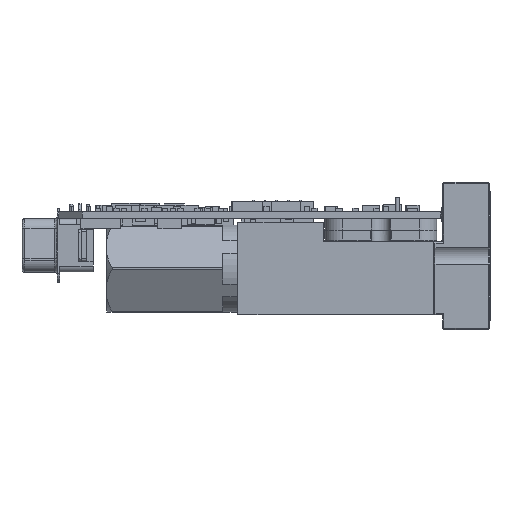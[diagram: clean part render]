
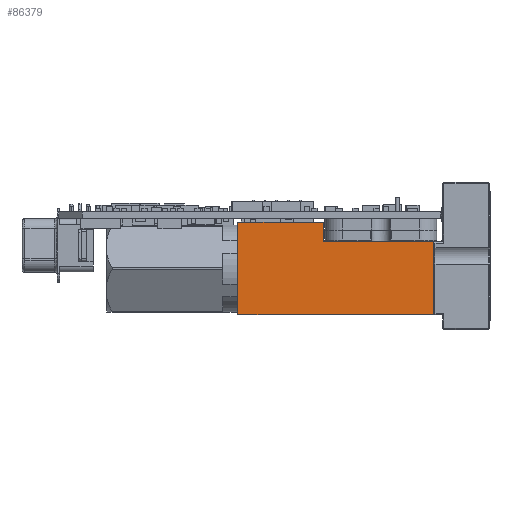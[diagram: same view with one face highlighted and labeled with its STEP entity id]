
A CAD part, left-side view. The second image highlights one B-rep face of the part: STEP entity #86379.
In plain terms, the highlighted planar face has unit normal (-1, 0, 0).
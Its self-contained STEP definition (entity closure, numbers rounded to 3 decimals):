
#1192 = FACE_OUTER_BOUND ( 'NONE', #77905, .T. ) ;
#3592 = CARTESIAN_POINT ( 'NONE',  ( -22.3, -54.661, -10. ) ) ;
#7350 = EDGE_CURVE ( 'NONE', #95698, #64883, #15951, .T. ) ;
#8871 = DIRECTION ( 'NONE',  ( 0., 0., -1. ) ) ;
#10995 = DIRECTION ( 'NONE',  ( 0., 0., -1. ) ) ;
#11310 = LINE ( 'NONE', #62703, #87436 ) ;
#15951 = LINE ( 'NONE', #58792, #33212 ) ;
#16238 = AXIS2_PLACEMENT_3D ( 'NONE', #3592, #55156, #10995 ) ;
#16959 = CARTESIAN_POINT ( 'NONE',  ( -22.3, 9.5, -10. ) ) ;
#17659 = EDGE_CURVE ( 'NONE', #86844, #20607, #11310, .T. ) ;
#20607 = VERTEX_POINT ( 'NONE', #66600 ) ;
#20622 = CARTESIAN_POINT ( 'NONE',  ( -22.3, 42.8, 5.7 ) ) ;
#22250 = ORIENTED_EDGE ( 'NONE', *, *, #17659, .F. ) ;
#23412 = LINE ( 'NONE', #52181, #79955 ) ;
#23474 = ORIENTED_EDGE ( 'NONE', *, *, #7350, .F. ) ;
#24359 = CARTESIAN_POINT ( 'NONE',  ( -22.3, 28.3, 5.7 ) ) ;
#25716 = CARTESIAN_POINT ( 'NONE',  ( -22.3, 28.3, 2.4 ) ) ;
#26397 = CARTESIAN_POINT ( 'NONE',  ( -22.3, 42.8, -10. ) ) ;
#27887 = EDGE_CURVE ( 'NONE', #20607, #95698, #66024, .T. ) ;
#30736 = CARTESIAN_POINT ( 'NONE',  ( -22.3, 9.5, -10. ) ) ;
#33212 = VECTOR ( 'NONE', #51374, 1000. ) ;
#36889 = LINE ( 'NONE', #25716, #58877 ) ;
#37304 = DIRECTION ( 'NONE',  ( 0., 1., 0. ) ) ;
#38381 = EDGE_CURVE ( 'NONE', #86844, #55389, #36889, .T. ) ;
#40750 = DIRECTION ( 'NONE',  ( 0., -1., 0. ) ) ;
#46444 = VECTOR ( 'NONE', #8871, 1000. ) ;
#47740 = PLANE ( 'NONE',  #16238 ) ;
#51374 = DIRECTION ( 'NONE',  ( 0., 1., 0. ) ) ;
#52181 = CARTESIAN_POINT ( 'NONE',  ( -22.3, -54.661, 5.7 ) ) ;
#52794 = ORIENTED_EDGE ( 'NONE', *, *, #38381, .T. ) ;
#52951 = EDGE_CURVE ( 'NONE', #55389, #57966, #23412, .T. ) ;
#55156 = DIRECTION ( 'NONE',  ( 1., 0., 0. ) ) ;
#55389 = VERTEX_POINT ( 'NONE', #24359 ) ;
#57966 = VERTEX_POINT ( 'NONE', #20622 ) ;
#58792 = CARTESIAN_POINT ( 'NONE',  ( -22.3, -54.661, -10. ) ) ;
#58877 = VECTOR ( 'NONE', #77316, 1000. ) ;
#60366 = LINE ( 'NONE', #26397, #75369 ) ;
#62703 = CARTESIAN_POINT ( 'NONE',  ( -22.3, 8., 2.4 ) ) ;
#63494 = DIRECTION ( 'NONE',  ( 0., 0., -1. ) ) ;
#64883 = VERTEX_POINT ( 'NONE', #94828 ) ;
#66024 = LINE ( 'NONE', #30736, #46444 ) ;
#66600 = CARTESIAN_POINT ( 'NONE',  ( -22.3, 9.5, 2.4 ) ) ;
#67201 = ORIENTED_EDGE ( 'NONE', *, *, #78703, .T. ) ;
#69213 = CARTESIAN_POINT ( 'NONE',  ( -22.3, 28.3, 2.4 ) ) ;
#75369 = VECTOR ( 'NONE', #63494, 1000. ) ;
#75877 = ORIENTED_EDGE ( 'NONE', *, *, #52951, .T. ) ;
#77316 = DIRECTION ( 'NONE',  ( 0., 0., 1. ) ) ;
#77905 = EDGE_LOOP ( 'NONE', ( #92854, #22250, #52794, #75877, #67201, #23474 ) ) ;
#78703 = EDGE_CURVE ( 'NONE', #57966, #64883, #60366, .T. ) ;
#79955 = VECTOR ( 'NONE', #37304, 1000. ) ;
#86379 = ADVANCED_FACE ( 'NONE', ( #1192 ), #47740, .F. ) ;
#86844 = VERTEX_POINT ( 'NONE', #69213 ) ;
#87436 = VECTOR ( 'NONE', #40750, 1000. ) ;
#92854 = ORIENTED_EDGE ( 'NONE', *, *, #27887, .F. ) ;
#94828 = CARTESIAN_POINT ( 'NONE',  ( -22.3, 42.8, -10. ) ) ;
#95698 = VERTEX_POINT ( 'NONE', #16959 ) ;
